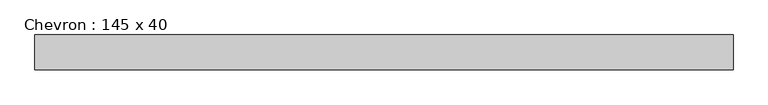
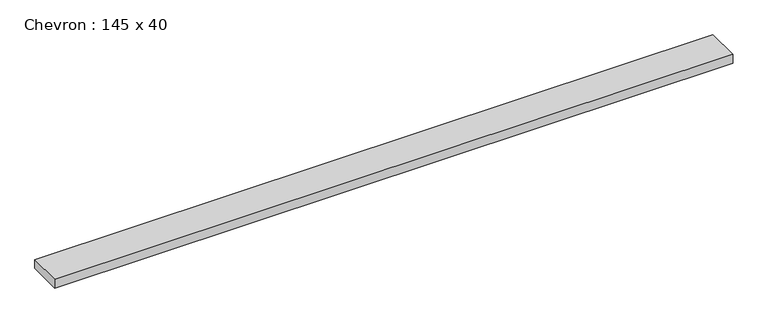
"""IFC4 building model written with IfcOpenShell, lengths in millimetres: beam geometry, Chevron : 145 x 40."""

from ifc_helpers import new_model, si_unit, frame, origin, place, context, project, spatial, polyline, outline, extrude, source, transform, mapped, element, save


def chevron_145_x_40_a3c6aac5(model_context):
    return source(origin(), model_context, "Body", "SweptSolid", [
        extrude(outline(polyline([(1442.8057525, 72.5), (1442.8057525, -72.5), (-1443.5, -72.5), (-1443.5, 72.5), (1442.8057525, 72.5)])), frame((0.0, 0.0, -20.0), z_axis=(0.0, 0.0, 1.0), x_axis=(1.0, 0.0, 0.0)), (0.0, 0.0, 1.0), 40.0),
    ])


if __name__ == "__main__":
    model = new_model("IFC4")
    model_context = context("Model", 3, world=origin())
    ifc_project = project(units=[si_unit("LENGTHUNIT", "METRE", prefix="MILLI")], contexts=[model_context])
    site = spatial("IfcSite", under=ifc_project)
    building = spatial("IfcBuilding", under=site)
    placement = place(None, origin())
    chevron_145_x_40_shape = chevron_145_x_40_a3c6aac5(model_context)
    element("IfcBeam", 1, ObjectType="Chevron : 145 x 40", at=placement, inside=building, context=model_context, shape_type="MappedRepresentation", body=[
        mapped(chevron_145_x_40_shape, transform((0.0, 0.0, 0.0), x_axis=(1.0, 0.0, 0.0), y_axis=(0.0, 1.0, 0.0), z_axis=(0.0, 0.0, 1.0))),
    ])
    save(model, "model.ifc")
